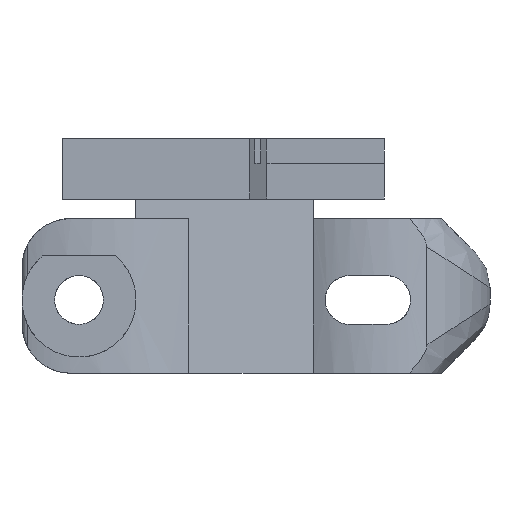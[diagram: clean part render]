
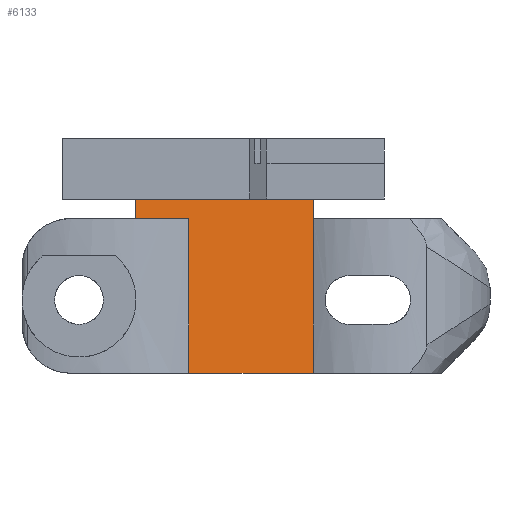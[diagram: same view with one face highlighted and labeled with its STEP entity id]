
A CAD part, left-side view. The second image highlights one B-rep face of the part: STEP entity #6133.
In plain terms, the highlighted planar face has unit normal (-0.966, -0.259, 0).
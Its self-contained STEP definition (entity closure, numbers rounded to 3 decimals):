
#5 = ORIENTED_EDGE ( 'NONE', *, *, #1050, .T. ) ;
#170 = CARTESIAN_POINT ( 'NONE',  ( -71.641, 41.641, 38.5 ) ) ;
#319 = LINE ( 'NONE', #3260, #4765 ) ;
#343 = CARTESIAN_POINT ( 'NONE',  ( -70.134, 36.018, 17.1 ) ) ;
#369 = CARTESIAN_POINT ( 'NONE',  ( -70.134, 36.018, 36.1 ) ) ;
#582 = VECTOR ( 'NONE', #4365, 1000. ) ;
#666 = EDGE_LOOP ( 'NONE', ( #5, #5124, #5795, #6401, #3693, #6571, #2932, #7092 ) ) ;
#676 = CARTESIAN_POINT ( 'NONE',  ( -66.03, 20.7, 38.5 ) ) ;
#698 = FACE_OUTER_BOUND ( 'NONE', #666, .T. ) ;
#895 = DIRECTION ( 'NONE',  ( 0., 0., -1. ) ) ;
#984 = DIRECTION ( 'NONE',  ( 0.259, -0.966, 0. ) ) ;
#1005 = CARTESIAN_POINT ( 'NONE',  ( -66.03, 20.7, 17.1 ) ) ;
#1050 = EDGE_CURVE ( 'NONE', #5026, #5632, #4220, .T. ) ;
#1221 = DIRECTION ( 'NONE',  ( -0.259, 0.966, 0. ) ) ;
#1236 = VERTEX_POINT ( 'NONE', #343 ) ;
#1300 = CARTESIAN_POINT ( 'NONE',  ( -66.03, 20.7, 38.5 ) ) ;
#1365 = EDGE_CURVE ( 'NONE', #5632, #3475, #2722, .T. ) ;
#1616 = DIRECTION ( 'NONE',  ( -0.259, 0.966, 0. ) ) ;
#1694 = EDGE_CURVE ( 'NONE', #1236, #5026, #2293, .T. ) ;
#1999 = CARTESIAN_POINT ( 'NONE',  ( -66.03, 20.7, 17.1 ) ) ;
#2024 = VERTEX_POINT ( 'NONE', #2232 ) ;
#2114 = EDGE_CURVE ( 'NONE', #3475, #4735, #4180, .T. ) ;
#2210 = VECTOR ( 'NONE', #895, 1000. ) ;
#2232 = CARTESIAN_POINT ( 'NONE',  ( -71.871, 42.5, 38.5 ) ) ;
#2293 = LINE ( 'NONE', #3103, #3672 ) ;
#2427 = VERTEX_POINT ( 'NONE', #369 ) ;
#2517 = DIRECTION ( 'NONE',  ( 0., 0., -1. ) ) ;
#2679 = EDGE_CURVE ( 'NONE', #4735, #2024, #319, .T. ) ;
#2722 = LINE ( 'NONE', #1005, #582 ) ;
#2729 = LINE ( 'NONE', #4643, #3240 ) ;
#2932 = ORIENTED_EDGE ( 'NONE', *, *, #4134, .T. ) ;
#3103 = CARTESIAN_POINT ( 'NONE',  ( -66.03, 20.7, 17.1 ) ) ;
#3240 = VECTOR ( 'NONE', #2517, 1000. ) ;
#3260 = CARTESIAN_POINT ( 'NONE',  ( -66.03, 20.7, 38.5 ) ) ;
#3475 = VERTEX_POINT ( 'NONE', #1300 ) ;
#3672 = VECTOR ( 'NONE', #6998, 1000. ) ;
#3693 = ORIENTED_EDGE ( 'NONE', *, *, #4111, .T. ) ;
#3901 = AXIS2_PLACEMENT_3D ( 'NONE', #1999, #6910, #4160 ) ;
#4111 = EDGE_CURVE ( 'NONE', #2024, #5213, #2729, .T. ) ;
#4134 = EDGE_CURVE ( 'NONE', #2427, #1236, #6953, .T. ) ;
#4160 = DIRECTION ( 'NONE',  ( 0.259, -0.966, 0. ) ) ;
#4163 = EDGE_CURVE ( 'NONE', #5213, #2427, #5057, .T. ) ;
#4180 = LINE ( 'NONE', #676, #5380 ) ;
#4220 = LINE ( 'NONE', #6900, #4908 ) ;
#4365 = DIRECTION ( 'NONE',  ( 0., 0., 1. ) ) ;
#4643 = CARTESIAN_POINT ( 'NONE',  ( -71.871, 42.5, 17.1 ) ) ;
#4659 = DIRECTION ( 'NONE',  ( 0., 0., 1. ) ) ;
#4691 = CARTESIAN_POINT ( 'NONE',  ( -70.134, 36.018, 17.1 ) ) ;
#4735 = VERTEX_POINT ( 'NONE', #170 ) ;
#4765 = VECTOR ( 'NONE', #1616, 1000. ) ;
#4908 = VECTOR ( 'NONE', #4659, 1000. ) ;
#4948 = CARTESIAN_POINT ( 'NONE',  ( -66.03, 20.7, 17.1 ) ) ;
#5026 = VERTEX_POINT ( 'NONE', #4948 ) ;
#5057 = LINE ( 'NONE', #5928, #5483 ) ;
#5124 = ORIENTED_EDGE ( 'NONE', *, *, #1365, .T. ) ;
#5213 = VERTEX_POINT ( 'NONE', #5724 ) ;
#5257 = CARTESIAN_POINT ( 'NONE',  ( -66.03, 20.7, 36.1 ) ) ;
#5380 = VECTOR ( 'NONE', #1221, 1000. ) ;
#5483 = VECTOR ( 'NONE', #984, 1000. ) ;
#5632 = VERTEX_POINT ( 'NONE', #5257 ) ;
#5724 = CARTESIAN_POINT ( 'NONE',  ( -71.871, 42.5, 36.1 ) ) ;
#5795 = ORIENTED_EDGE ( 'NONE', *, *, #2114, .T. ) ;
#5928 = CARTESIAN_POINT ( 'NONE',  ( -66.03, 20.7, 36.1 ) ) ;
#6133 = ADVANCED_FACE ( 'NONE', ( #698 ), #6394, .T. ) ;
#6394 = PLANE ( 'NONE',  #3901 ) ;
#6401 = ORIENTED_EDGE ( 'NONE', *, *, #2679, .T. ) ;
#6571 = ORIENTED_EDGE ( 'NONE', *, *, #4163, .T. ) ;
#6900 = CARTESIAN_POINT ( 'NONE',  ( -66.03, 20.7, 17.1 ) ) ;
#6910 = DIRECTION ( 'NONE',  ( -0.966, -0.259, 0. ) ) ;
#6953 = LINE ( 'NONE', #4691, #2210 ) ;
#6998 = DIRECTION ( 'NONE',  ( 0.259, -0.966, 0. ) ) ;
#7092 = ORIENTED_EDGE ( 'NONE', *, *, #1694, .T. ) ;
